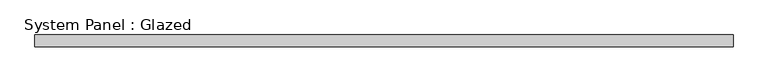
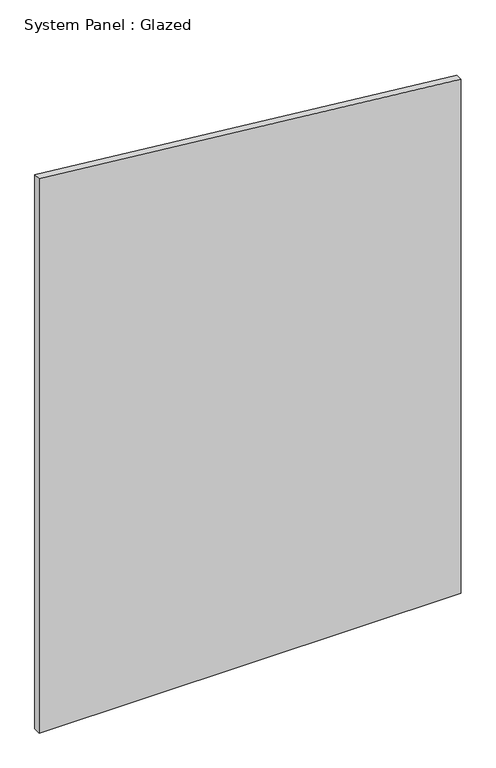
"""IFC4 building model written with IfcOpenShell, lengths in millimetres: plate geometry, System Panel : Glazed."""

from ifc_helpers import new_model, si_unit, frame, origin, place, context, project, spatial, polyline, outline, extrude, source, transform, mapped, element, save


def system_panel_glazed_1e045004(model_context):
    return source(origin(), model_context, "Body", "SweptSolid", [
        extrude(outline(polyline([(0.0, -735.8695652), (0.0, 735.8695652), (1894.6697753, 735.8695652), (2042.652754, -735.8695652), (0.0, -735.8695652)])), frame((0.0, 24.5, 0.0), z_axis=(0.0, 1.0, 0.0), x_axis=(0.0, 0.0, 1.0)), (0.0, 0.0, 1.0), 25.0),
    ])


if __name__ == "__main__":
    model = new_model("IFC4")
    model_context = context("Model", 3, world=origin())
    ifc_project = project(units=[si_unit("LENGTHUNIT", "METRE", prefix="MILLI")], contexts=[model_context])
    site = spatial("IfcSite", under=ifc_project)
    building = spatial("IfcBuilding", under=site)
    placement = place(None, origin())
    system_panel_glazed_shape = system_panel_glazed_1e045004(model_context)
    element("IfcPlate", 1, ObjectType="System Panel : Glazed", at=placement, inside=building, context=model_context, shape_type="MappedRepresentation", body=[
        mapped(system_panel_glazed_shape, transform((0.0, 0.0, 0.0), x_axis=(1.0, 0.0, 0.0), y_axis=(0.0, 1.0, 0.0), z_axis=(0.0, 0.0, 1.0))),
    ])
    save(model, "model.ifc")
